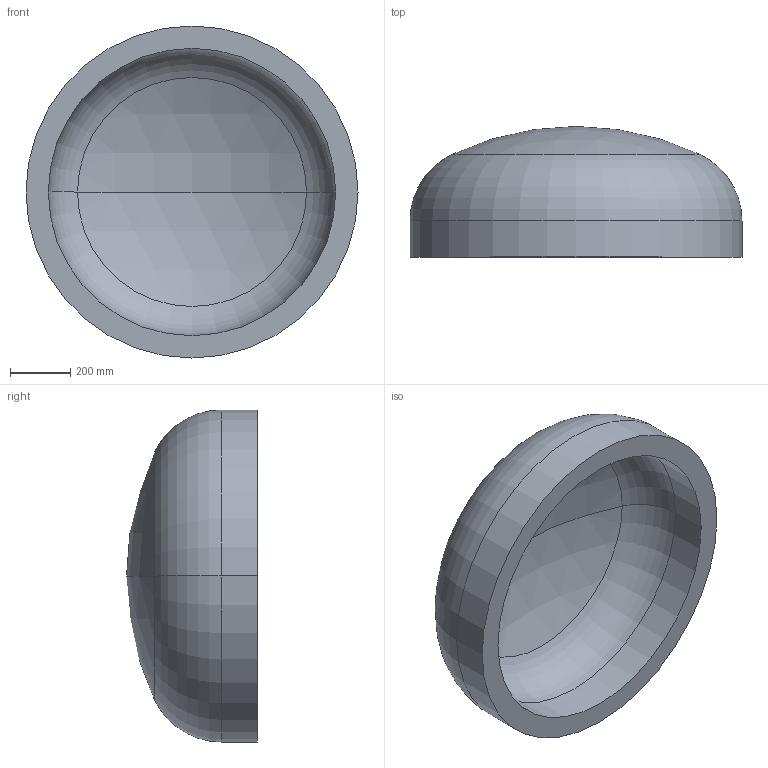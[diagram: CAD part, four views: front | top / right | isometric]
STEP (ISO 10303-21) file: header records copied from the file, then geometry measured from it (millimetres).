
FILE_DESCRIPTION (( 'STEP AP203' ), '1' );
FILE_NAME ('DIN 28013 Korbbogenform_-_Boden DIN 28013 - 1100 x 120 - I - s=74.step', '2016-07-01T09:12:46', ( '' ), ( '' ), 'SwSTEP 2.0', 'SolidWorks 2013', '' );
FILE_SCHEMA (( 'CONFIG_CONTROL_DESIGN' ));
Length unit declared in the file: millimetre
Products named in the file (1): DIN 28013 Korbbogenform_-_Boden DIN 28013 - 1100 x 120 - I - s=74
Bounding box: 1100 x 433.33 x 1100 mm (x, y, z)
Volume: 118126696.7 mm3; surface area: 3442604 mm2
Topology: 1 solids, 1 shells, 13 faces, 24 edges, 14 vertices
Faces by surface type: torus 4, cylinder 4, sphere 4, plane 1
Entity records: 407 total; most frequent: DIRECTION 72, CARTESIAN_POINT 52, ORIENTED_EDGE 48, AXIS2_PLACEMENT_3D 34, EDGE_CURVE 24, CIRCLE 20, VERTEX_POINT 14, EDGE_LOOP 14
